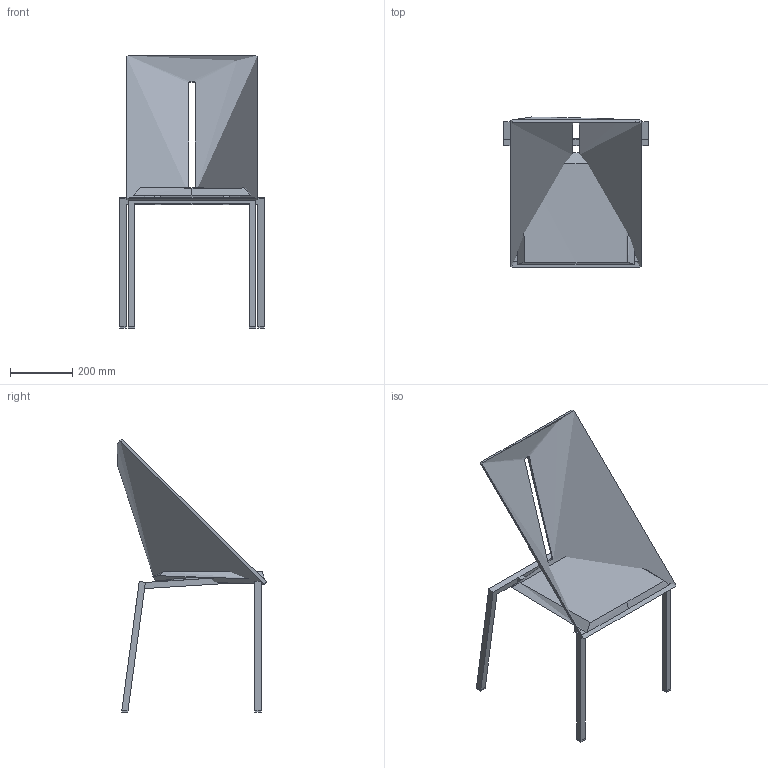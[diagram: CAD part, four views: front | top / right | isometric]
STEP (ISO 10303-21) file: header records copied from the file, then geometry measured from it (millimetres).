
FILE_DESCRIPTION(/* description */ (''),/* implementation_level */ '2;1');
FILE_NAME(/* name */ 'TWIST2~1',/* time_stamp */ '2016-07-06T10:53:06+02:00',/* author */ (''),/* organization */ (''),/* preprocessor_version */ 'ST-DEVELOPER v15',/* originating_system */ '',/* authorisation */ '');
FILE_SCHEMA (('CONFIG_CONTROL_DESIGN'));
Length unit declared in the file: millimetre
Products named in the file (1): Document
Bounding box: 465 x 482.59 x 878.87 mm (x, y, z)
Volume: 3148314 mm3; surface area: 1176164.5 mm2
Topology: 1 solids, 9 shells, 87 faces, 238 edges, 157 vertices
Faces by surface type: plane 51, bspline 36
Entity records: 8880 total; most frequent: CARTESIAN_POINT 7309, ORIENTED_EDGE 421, EDGE_CURVE 235, B_SPLINE_CURVE_WITH_KNOTS 205, VERTEX_POINT 153, EDGE_LOOP 89, ADVANCED_FACE 87, FACE_OUTER_BOUND 87
